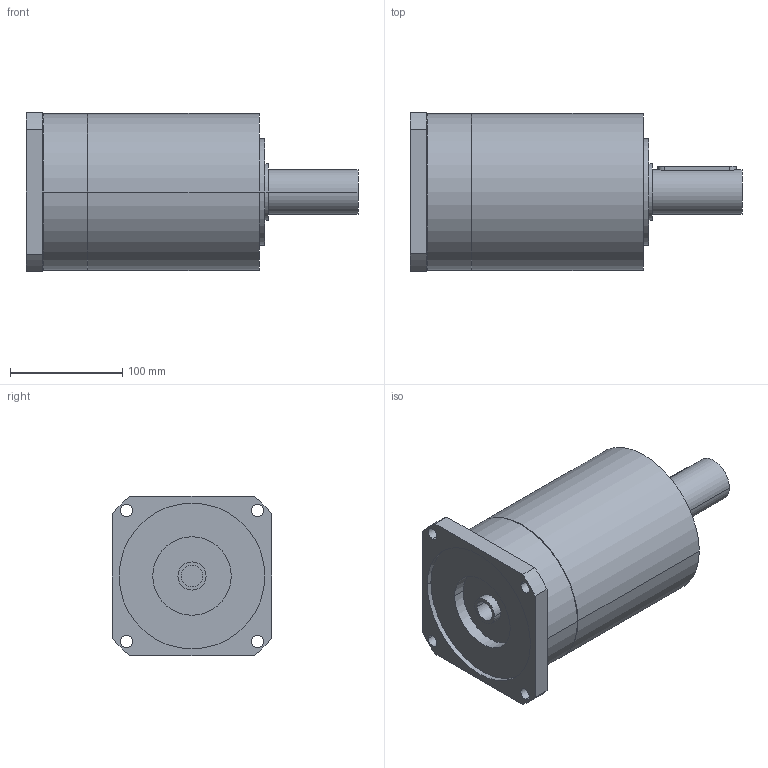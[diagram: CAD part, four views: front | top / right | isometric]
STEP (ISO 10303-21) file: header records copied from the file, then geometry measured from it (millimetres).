
FILE_DESCRIPTION(('CoCreate Modeling STEP Export'),'2;1');
FILE_NAME('GPR150_ig-9-12-16-20-28-35_40_B14_19_P05.stp','2014-08-19T17:03:17',(''),(''),'CoCreate Modeling STEP processor for AP214 (Solid Model)','CoCreate Modeling 16.00C 25-Feb-2009 (C) Parametric Technology GmbH','');
FILE_SCHEMA(('AUTOMOTIVE_DESIGN { 1 0 10303 214 1 1 1 1 }'));
Length unit declared in the file: millimetre
Products named in the file (2): GPR150_ig-9-12-16-20-28-35_40_B14_19_P05
Assembly tree (1 placements, depth 2):
  GPR150_ig-9-12-16-20-28-35_40_B14_19_P05
    GPR150_ig-9-12-16-20-28-35_40_B14_19_P05
Bounding box: 296 x 142 x 142 mm (x, y, z)
Volume: 3283868.7 mm3; surface area: 158658.2 mm2
Topology: 1 solids, 1 shells, 70 faces, 189 edges, 133 vertices
Faces by surface type: cylinder 42, plane 22, cone 6
Entity records: 1973 total; most frequent: CARTESIAN_POINT 386, ORIENTED_EDGE 374, DIRECTION 264, EDGE_CURVE 187, VERTEX_POINT 133, AXIS2_PLACEMENT_3D 99, EDGE_LOOP 92, FACE_OUTER_BOUND 70
